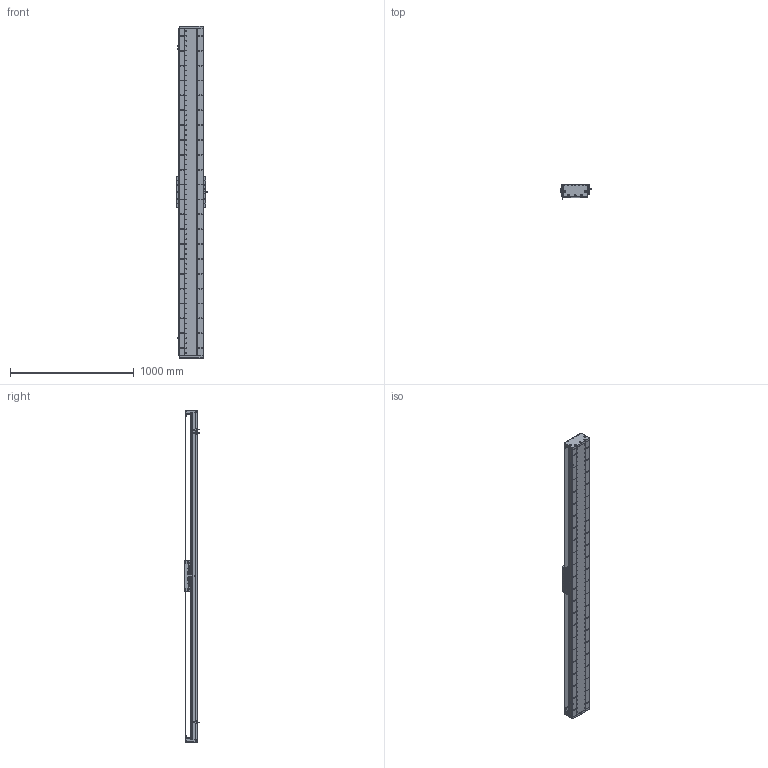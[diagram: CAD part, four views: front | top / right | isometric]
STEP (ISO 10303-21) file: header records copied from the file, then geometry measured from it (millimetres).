
FILE_DESCRIPTION (( 'STEP AP203' ), '1' );
FILE_NAME ('DA-C195-C3-T2340-C010-0.2 眻盄萇儂.STEP', '2025-08-15T01:32:56', ( '' ), ( '' ), 'SwSTEP 2.0', 'SolidWorks 2019', '' );
FILE_SCHEMA (( 'CONFIG_CONTROL_DESIGN' ));
Length unit declared in the file: millimetre
Products named in the file (15): DA95-HXJ-00 遣喳砎蝶; LMT黍杅芛; DA195詩湍嶺輸; DA195詩湍郪璃; PM-T45ㄗ侂狟ㄘ; MS200 棠掑喜S315-T240; IU-CU195-L-00 菁釱(L2640); IU-CU195-L 菁釱絳寢; DA165-GYP-00 光电感应片(默认); DA-C195-GD-DB-H-00 傷啣; DA195詩湍裔啣; DA-C195-C3-T2340-C010-0.2 眻盄萇儂; CU195-C3賑輸-俋楷; DA195詩湍菜輸; 葩璃 DA95-GT-T-00
Assembly tree (29 placements, depth 3):
  DA-C195-C3-T2340-C010-0.2 眻盄萇儂
    DA195詩湍郪璃
      DA195詩湍菜輸  x2
      DA195詩湍裔啣
      DA195詩湍嶺輸  x2
      DA95-HXJ-00 遣喳砎蝶  x8
      DA-C195-GD-DB-H-00 傷啣  x2
    IU-CU195-L 菁釱絳寢
      IU-CU195-L-00 菁釱(L2640)
      葩璃 DA95-GT-T-00  x4
    LMT黍杅芛
    MS200 棠掑喜S315-T240
    PM-T45ㄗ侂狟ㄘ  x3
    DA165-GYP-00 光电感应片(默认)
    CU195-C3賑輸-俋楷
Bounding box: 248 x 115.45 x 2680 mm (x, y, z)
Volume: 15733617.9 mm3; surface area: 4621982.7 mm2
Topology: 86 solids, 118 shells, 4344 faces, 12231 edges, 7713 vertices
Faces by surface type: cylinder 2378, plane 1364, cone 514, torus 52, sphere 36
Entity records: 140037 total; most frequent: CARTESIAN_POINT 37932, ORIENTED_EDGE 21378, DIRECTION 20542, EDGE_CURVE 10689, AXIS2_PLACEMENT_3D 7717, VERTEX_POINT 6915, VECTOR 5108, LINE 5108
